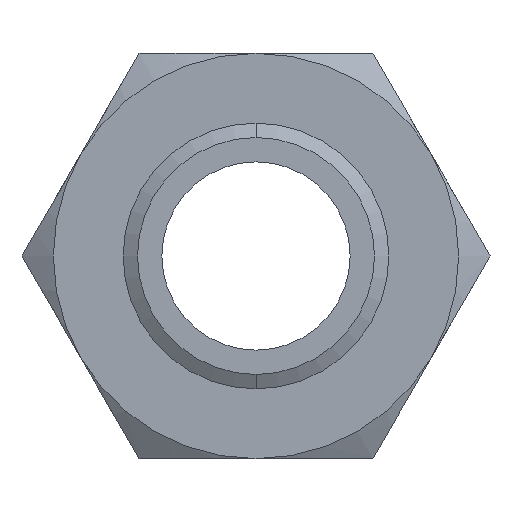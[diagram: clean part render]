
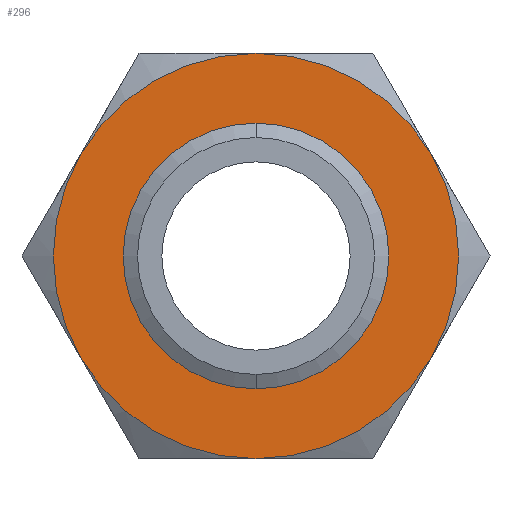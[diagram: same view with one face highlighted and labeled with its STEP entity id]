
A CAD part, front view. The second image highlights one B-rep face of the part: STEP entity #296.
In plain terms, the highlighted planar face has unit normal (0, -1, 0).
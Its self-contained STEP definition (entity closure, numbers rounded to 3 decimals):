
#215 = VERTEX_POINT ( 'NONE', #788 ) ;
#217 = VERTEX_POINT ( 'NONE', #786 ) ;
#218 = ORIENTED_EDGE ( 'NONE', *, *, #219, .F. ) ;
#219 = EDGE_CURVE ( 'NONE', #215, #217, #849, .T. ) ;
#220 = EDGE_CURVE ( 'NONE', #221, #230, #844, .T. ) ;
#221 = VERTEX_POINT ( 'NONE', #839 ) ;
#222 = EDGE_LOOP ( 'NONE', ( #297, #224, #218, #295, #327, #330 ) ) ;
#224 = ORIENTED_EDGE ( 'NONE', *, *, #225, .F. ) ;
#225 = EDGE_CURVE ( 'NONE', #217, #221, #836, .T. ) ;
#230 = VERTEX_POINT ( 'NONE', #827 ) ;
#295 = ORIENTED_EDGE ( 'NONE', *, *, #325, .F. ) ;
#296 = ADVANCED_FACE ( 'NONE', ( #1003, #1002 ), #1001, .F. ) ;
#297 = ORIENTED_EDGE ( 'NONE', *, *, #220, .F. ) ;
#325 = EDGE_CURVE ( 'NONE', #326, #215, #1008, .T. ) ;
#326 = VERTEX_POINT ( 'NONE', #1064 ) ;
#327 = ORIENTED_EDGE ( 'NONE', *, *, #328, .F. ) ;
#328 = EDGE_CURVE ( 'NONE', #329, #326, #1063, .T. ) ;
#329 = VERTEX_POINT ( 'NONE', #1058 ) ;
#330 = ORIENTED_EDGE ( 'NONE', *, *, #331, .F. ) ;
#331 = EDGE_CURVE ( 'NONE', #230, #329, #1057, .T. ) ;
#332 = EDGE_LOOP ( 'NONE', ( #333, #334 ) ) ;
#333 = ORIENTED_EDGE ( 'NONE', *, *, #3176, .F. ) ;
#334 = ORIENTED_EDGE ( 'NONE', *, *, #335, .F. ) ;
#335 = EDGE_CURVE ( 'NONE', #3146, #3149, #1052, .T. ) ;
#786 = CARTESIAN_POINT ( 'NONE',  ( -67.117, 0., 38.75 ) ) ;
#788 = CARTESIAN_POINT ( 'NONE',  ( -67.117, 0., -38.75 ) ) ;
#827 = CARTESIAN_POINT ( 'NONE',  ( 67.117, 0., 38.75 ) ) ;
#832 = DIRECTION ( 'NONE',  ( 0., 0., 1. ) ) ;
#833 = DIRECTION ( 'NONE',  ( 0., 1., 0. ) ) ;
#834 = CARTESIAN_POINT ( 'NONE',  ( 0., 0., 0. ) ) ;
#835 = AXIS2_PLACEMENT_3D ( 'NONE', #834, #833, #832 ) ;
#836 = CIRCLE ( 'NONE', #835, 77.5 ) ;
#839 = CARTESIAN_POINT ( 'NONE',  ( 0., 0., 77.5 ) ) ;
#840 = DIRECTION ( 'NONE',  ( 0., 0., 1. ) ) ;
#841 = DIRECTION ( 'NONE',  ( 0., 1., 0. ) ) ;
#842 = CARTESIAN_POINT ( 'NONE',  ( 0., 0., 0. ) ) ;
#843 = AXIS2_PLACEMENT_3D ( 'NONE', #842, #841, #840 ) ;
#844 = CIRCLE ( 'NONE', #843, 77.5 ) ;
#845 = DIRECTION ( 'NONE',  ( 0., 0., 1. ) ) ;
#846 = DIRECTION ( 'NONE',  ( 0., 1., 0. ) ) ;
#847 = CARTESIAN_POINT ( 'NONE',  ( 0., 0., 0. ) ) ;
#848 = AXIS2_PLACEMENT_3D ( 'NONE', #847, #846, #845 ) ;
#849 = CIRCLE ( 'NONE', #848, 77.5 ) ;
#997 = DIRECTION ( 'NONE',  ( 0., 0., 1. ) ) ;
#998 = DIRECTION ( 'NONE',  ( 0., 1., 0. ) ) ;
#999 = CARTESIAN_POINT ( 'NONE',  ( 44.745, 0., -77.5 ) ) ;
#1000 = AXIS2_PLACEMENT_3D ( 'NONE', #999, #998, #997 ) ;
#1001 = PLANE ( 'NONE',  #1000 ) ;
#1002 = FACE_BOUND ( 'NONE', #332, .T. ) ;
#1003 = FACE_OUTER_BOUND ( 'NONE', #222, .T. ) ;
#1005 = DIRECTION ( 'NONE',  ( 0., 0., 1. ) ) ;
#1006 = DIRECTION ( 'NONE',  ( 0., 1., 0. ) ) ;
#1007 = AXIS2_PLACEMENT_3D ( 'NONE', #1014, #1006, #1005 ) ;
#1008 = CIRCLE ( 'NONE', #1007, 77.5 ) ;
#1014 = CARTESIAN_POINT ( 'NONE',  ( 0., 0., 0. ) ) ;
#1048 = DIRECTION ( 'NONE',  ( 0., 0., -1. ) ) ;
#1049 = DIRECTION ( 'NONE',  ( 0., -1., 0. ) ) ;
#1050 = CARTESIAN_POINT ( 'NONE',  ( 0., 0., 0. ) ) ;
#1051 = AXIS2_PLACEMENT_3D ( 'NONE', #1050, #1049, #1048 ) ;
#1052 = CIRCLE ( 'NONE', #1051, 45.301 ) ;
#1053 = DIRECTION ( 'NONE',  ( 0., 0., 1. ) ) ;
#1054 = DIRECTION ( 'NONE',  ( 0., 1., 0. ) ) ;
#1055 = CARTESIAN_POINT ( 'NONE',  ( 0., 0., 0. ) ) ;
#1056 = AXIS2_PLACEMENT_3D ( 'NONE', #1055, #1054, #1053 ) ;
#1057 = CIRCLE ( 'NONE', #1056, 77.5 ) ;
#1058 = CARTESIAN_POINT ( 'NONE',  ( 67.117, 0., -38.75 ) ) ;
#1059 = DIRECTION ( 'NONE',  ( 0., 0., 1. ) ) ;
#1060 = DIRECTION ( 'NONE',  ( 0., 1., 0. ) ) ;
#1061 = CARTESIAN_POINT ( 'NONE',  ( 0., 0., 0. ) ) ;
#1062 = AXIS2_PLACEMENT_3D ( 'NONE', #1061, #1060, #1059 ) ;
#1063 = CIRCLE ( 'NONE', #1062, 77.5 ) ;
#1064 = CARTESIAN_POINT ( 'NONE',  ( 0., 0., -77.5 ) ) ;
#2382 = CARTESIAN_POINT ( 'NONE',  ( 0., 0., -45.301 ) ) ;
#2387 = CARTESIAN_POINT ( 'NONE',  ( 0., 0., 45.301 ) ) ;
#2416 = CARTESIAN_POINT ( 'NONE',  ( 0., 0., 0. ) ) ;
#2457 = DIRECTION ( 'NONE',  ( 0., 0., -1. ) ) ;
#2458 = DIRECTION ( 'NONE',  ( 0., -1., 0. ) ) ;
#2459 = AXIS2_PLACEMENT_3D ( 'NONE', #2416, #2458, #2457 ) ;
#2460 = CIRCLE ( 'NONE', #2459, 45.301 ) ;
#3146 = VERTEX_POINT ( 'NONE', #2387 ) ;
#3149 = VERTEX_POINT ( 'NONE', #2382 ) ;
#3176 = EDGE_CURVE ( 'NONE', #3149, #3146, #2460, .T. ) ;
